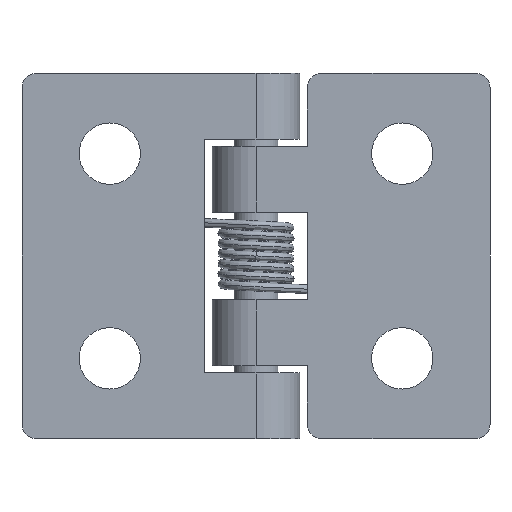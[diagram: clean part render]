
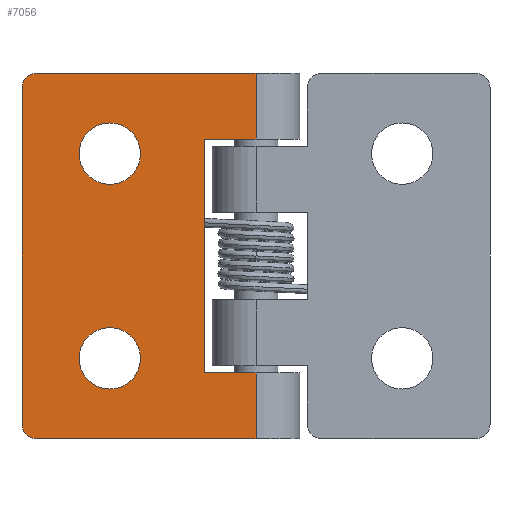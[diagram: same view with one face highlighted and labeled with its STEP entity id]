
A CAD part, front view. The second image highlights one B-rep face of the part: STEP entity #7056.
In plain terms, the highlighted planar face has unit normal (0, -1, 0).
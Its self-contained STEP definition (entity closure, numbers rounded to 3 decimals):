
#115 = VERTEX_POINT ( 'NONE', #4266 ) ;
#247 = DIRECTION ( 'NONE',  ( 0., 0., 1. ) ) ;
#315 = VERTEX_POINT ( 'NONE', #1060 ) ;
#331 = CARTESIAN_POINT ( 'NONE',  ( 0., -3., -8. ) ) ;
#350 = PLANE ( 'NONE',  #2996 ) ;
#357 = CIRCLE ( 'NONE', #6052, 1. ) ;
#401 = EDGE_CURVE ( 'NONE', #5805, #3689, #571, .T. ) ;
#413 = VERTEX_POINT ( 'NONE', #1087 ) ;
#571 = CIRCLE ( 'NONE', #1822, 2.1 ) ;
#686 = VERTEX_POINT ( 'NONE', #6242 ) ;
#827 = LINE ( 'NONE', #3845, #5841 ) ;
#891 = ORIENTED_EDGE ( 'NONE', *, *, #5587, .F. ) ;
#912 = VECTOR ( 'NONE', #7509, 1000. ) ;
#1004 = CARTESIAN_POINT ( 'NONE',  ( 10., -3., -7. ) ) ;
#1027 = DIRECTION ( 'NONE',  ( 0., 1., 0. ) ) ;
#1032 = DIRECTION ( 'NONE',  ( 0., 0., 1. ) ) ;
#1041 = DIRECTION ( 'NONE',  ( 1., 0., 0. ) ) ;
#1056 = ORIENTED_EDGE ( 'NONE', *, *, #5227, .T. ) ;
#1060 = CARTESIAN_POINT ( 'NONE',  ( 16., -3., 11.5 ) ) ;
#1078 = VECTOR ( 'NONE', #5702, 1000. ) ;
#1087 = CARTESIAN_POINT ( 'NONE',  ( 0., -3., -12.5 ) ) ;
#1136 = CARTESIAN_POINT ( 'NONE',  ( 10., -3., 7. ) ) ;
#1184 = CARTESIAN_POINT ( 'NONE',  ( 0., -3., 12.5 ) ) ;
#1242 = EDGE_CURVE ( 'NONE', #115, #7073, #5986, .T. ) ;
#1248 = VERTEX_POINT ( 'NONE', #2392 ) ;
#1308 = CARTESIAN_POINT ( 'NONE',  ( 0., -3., -12.5 ) ) ;
#1467 = VERTEX_POINT ( 'NONE', #8456 ) ;
#1582 = EDGE_CURVE ( 'NONE', #315, #1248, #357, .T. ) ;
#1633 = EDGE_CURVE ( 'NONE', #413, #6226, #4976, .T. ) ;
#1655 = EDGE_CURVE ( 'NONE', #3689, #5805, #1888, .T. ) ;
#1680 = EDGE_LOOP ( 'NONE', ( #3005, #1056 ) ) ;
#1733 = CARTESIAN_POINT ( 'NONE',  ( 10., -3., -7. ) ) ;
#1782 = CIRCLE ( 'NONE', #2718, 1. ) ;
#1808 = DIRECTION ( 'NONE',  ( 0., 0., 1. ) ) ;
#1810 = DIRECTION ( 'NONE',  ( 0., 1., 0. ) ) ;
#1822 = AXIS2_PLACEMENT_3D ( 'NONE', #1004, #1027, #1032 ) ;
#1847 = ORIENTED_EDGE ( 'NONE', *, *, #1582, .T. ) ;
#1888 = CIRCLE ( 'NONE', #5628, 2.1 ) ;
#2080 = ORIENTED_EDGE ( 'NONE', *, *, #8032, .T. ) ;
#2331 = DIRECTION ( 'NONE',  ( 0., 1., 0. ) ) ;
#2392 = CARTESIAN_POINT ( 'NONE',  ( 15., -3., 12.5 ) ) ;
#2413 = CARTESIAN_POINT ( 'NONE',  ( 3.5, -3., 8. ) ) ;
#2497 = FACE_BOUND ( 'NONE', #6037, .T. ) ;
#2505 = CARTESIAN_POINT ( 'NONE',  ( 10., -3., 9.1 ) ) ;
#2510 = EDGE_CURVE ( 'NONE', #1467, #5551, #5569, .T. ) ;
#2512 = CARTESIAN_POINT ( 'NONE',  ( 15., -3., -12.5 ) ) ;
#2514 = DIRECTION ( 'NONE',  ( 0., 0., 1. ) ) ;
#2572 = EDGE_CURVE ( 'NONE', #686, #115, #7257, .T. ) ;
#2574 = AXIS2_PLACEMENT_3D ( 'NONE', #8056, #4179, #247 ) ;
#2576 = DIRECTION ( 'NONE',  ( 1., 0., 0. ) ) ;
#2649 = LINE ( 'NONE', #2976, #912 ) ;
#2667 = CARTESIAN_POINT ( 'NONE',  ( 15., -3., 11.5 ) ) ;
#2718 = AXIS2_PLACEMENT_3D ( 'NONE', #7207, #3319, #7849 ) ;
#2857 = VERTEX_POINT ( 'NONE', #5808 ) ;
#2968 = CARTESIAN_POINT ( 'NONE',  ( 3.5, -3., 8. ) ) ;
#2976 = CARTESIAN_POINT ( 'NONE',  ( 16., -3., 12.5 ) ) ;
#2996 = AXIS2_PLACEMENT_3D ( 'NONE', #7502, #2331, #6891 ) ;
#3005 = ORIENTED_EDGE ( 'NONE', *, *, #6032, .T. ) ;
#3041 = LINE ( 'NONE', #3110, #1078 ) ;
#3048 = EDGE_CURVE ( 'NONE', #7073, #1467, #827, .T. ) ;
#3110 = CARTESIAN_POINT ( 'NONE',  ( 0., -3., 12.5 ) ) ;
#3270 = CIRCLE ( 'NONE', #2574, 2.1 ) ;
#3319 = DIRECTION ( 'NONE',  ( 0., -1., 0. ) ) ;
#3689 = VERTEX_POINT ( 'NONE', #4508 ) ;
#3809 = VECTOR ( 'NONE', #6539, 1000. ) ;
#3817 = DIRECTION ( 'NONE',  ( 0., 0., -1. ) ) ;
#3845 = CARTESIAN_POINT ( 'NONE',  ( 3.5, -3., -8. ) ) ;
#3958 = CARTESIAN_POINT ( 'NONE',  ( 0., -3., 12.5 ) ) ;
#4169 = LINE ( 'NONE', #1184, #7596 ) ;
#4179 = DIRECTION ( 'NONE',  ( 0., 1., 0. ) ) ;
#4266 = CARTESIAN_POINT ( 'NONE',  ( 0., -3., 8. ) ) ;
#4368 = CARTESIAN_POINT ( 'NONE',  ( 10., -3., -9.1 ) ) ;
#4405 = ORIENTED_EDGE ( 'NONE', *, *, #6204, .F. ) ;
#4429 = ORIENTED_EDGE ( 'NONE', *, *, #1655, .T. ) ;
#4468 = DIRECTION ( 'NONE',  ( 1., 0., 0. ) ) ;
#4508 = CARTESIAN_POINT ( 'NONE',  ( 10., -3., -4.9 ) ) ;
#4524 = VERTEX_POINT ( 'NONE', #5798 ) ;
#4558 = CIRCLE ( 'NONE', #5524, 2.1 ) ;
#4609 = DIRECTION ( 'NONE',  ( 0., 0., -1. ) ) ;
#4965 = EDGE_LOOP ( 'NONE', ( #891, #1847, #4405, #6727, #6766, #6051, #6969, #7905, #7994, #2080 ) ) ;
#4976 = LINE ( 'NONE', #1308, #6698 ) ;
#5227 = EDGE_CURVE ( 'NONE', #2857, #7658, #3270, .T. ) ;
#5353 = VECTOR ( 'NONE', #4609, 1000. ) ;
#5524 = AXIS2_PLACEMENT_3D ( 'NONE', #1136, #5725, #1808 ) ;
#5551 = VERTEX_POINT ( 'NONE', #331 ) ;
#5569 = LINE ( 'NONE', #8442, #3809 ) ;
#5587 = EDGE_CURVE ( 'NONE', #315, #4524, #2649, .T. ) ;
#5599 = VECTOR ( 'NONE', #2576, 1000. ) ;
#5628 = AXIS2_PLACEMENT_3D ( 'NONE', #1733, #1810, #2514 ) ;
#5702 = DIRECTION ( 'NONE',  ( 0., 0., -1. ) ) ;
#5725 = DIRECTION ( 'NONE',  ( 0., 1., 0. ) ) ;
#5798 = CARTESIAN_POINT ( 'NONE',  ( 16., -3., -11.5 ) ) ;
#5805 = VERTEX_POINT ( 'NONE', #4368 ) ;
#5808 = CARTESIAN_POINT ( 'NONE',  ( 10., -3., 4.9 ) ) ;
#5841 = VECTOR ( 'NONE', #3817, 1000. ) ;
#5986 = LINE ( 'NONE', #2413, #5599 ) ;
#5988 = FACE_OUTER_BOUND ( 'NONE', #4965, .T. ) ;
#6005 = EDGE_CURVE ( 'NONE', #5551, #413, #3041, .T. ) ;
#6032 = EDGE_CURVE ( 'NONE', #7658, #2857, #4558, .T. ) ;
#6037 = EDGE_LOOP ( 'NONE', ( #4429, #8247 ) ) ;
#6051 = ORIENTED_EDGE ( 'NONE', *, *, #3048, .T. ) ;
#6052 = AXIS2_PLACEMENT_3D ( 'NONE', #2667, #8287, #6953 ) ;
#6204 = EDGE_CURVE ( 'NONE', #686, #1248, #4169, .T. ) ;
#6226 = VERTEX_POINT ( 'NONE', #2512 ) ;
#6242 = CARTESIAN_POINT ( 'NONE',  ( 0., -3., 12.5 ) ) ;
#6539 = DIRECTION ( 'NONE',  ( -1., 0., 0. ) ) ;
#6698 = VECTOR ( 'NONE', #1041, 1000. ) ;
#6727 = ORIENTED_EDGE ( 'NONE', *, *, #2572, .T. ) ;
#6766 = ORIENTED_EDGE ( 'NONE', *, *, #1242, .T. ) ;
#6891 = DIRECTION ( 'NONE',  ( 0., 0., 1. ) ) ;
#6953 = DIRECTION ( 'NONE',  ( 0., 0., 1. ) ) ;
#6969 = ORIENTED_EDGE ( 'NONE', *, *, #2510, .T. ) ;
#7056 = ADVANCED_FACE ( 'NONE', ( #2497, #7499, #5988 ), #350, .F. ) ;
#7073 = VERTEX_POINT ( 'NONE', #2968 ) ;
#7207 = CARTESIAN_POINT ( 'NONE',  ( 15., -3., -11.5 ) ) ;
#7257 = LINE ( 'NONE', #3958, #5353 ) ;
#7499 = FACE_BOUND ( 'NONE', #1680, .T. ) ;
#7502 = CARTESIAN_POINT ( 'NONE',  ( 0., -3., 12.5 ) ) ;
#7509 = DIRECTION ( 'NONE',  ( 0., 0., -1. ) ) ;
#7596 = VECTOR ( 'NONE', #4468, 1000. ) ;
#7658 = VERTEX_POINT ( 'NONE', #2505 ) ;
#7849 = DIRECTION ( 'NONE',  ( 0., 0., 1. ) ) ;
#7905 = ORIENTED_EDGE ( 'NONE', *, *, #6005, .T. ) ;
#7994 = ORIENTED_EDGE ( 'NONE', *, *, #1633, .T. ) ;
#8032 = EDGE_CURVE ( 'NONE', #6226, #4524, #1782, .T. ) ;
#8056 = CARTESIAN_POINT ( 'NONE',  ( 10., -3., 7. ) ) ;
#8247 = ORIENTED_EDGE ( 'NONE', *, *, #401, .T. ) ;
#8287 = DIRECTION ( 'NONE',  ( 0., -1., 0. ) ) ;
#8442 = CARTESIAN_POINT ( 'NONE',  ( 3.5, -3., -8. ) ) ;
#8456 = CARTESIAN_POINT ( 'NONE',  ( 3.5, -3., -8. ) ) ;
